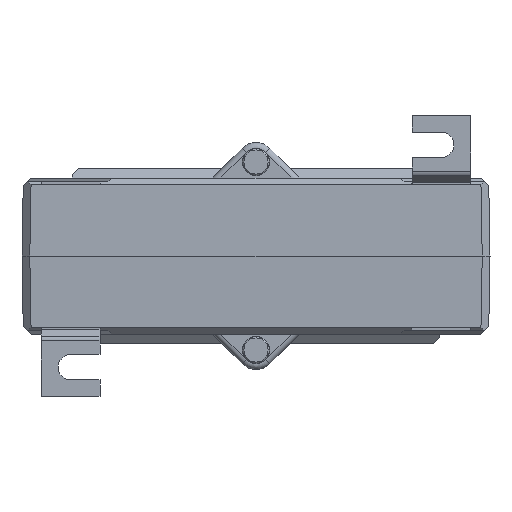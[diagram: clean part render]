
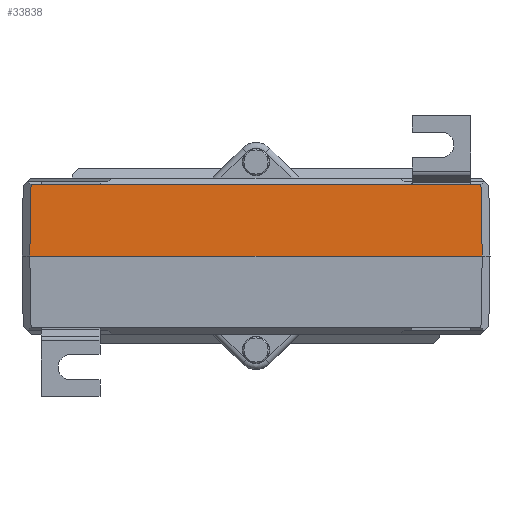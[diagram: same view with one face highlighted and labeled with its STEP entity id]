
A CAD part, front view. The second image highlights one B-rep face of the part: STEP entity #33838.
In plain terms, the highlighted planar face has unit normal (0, -1, 0.018).
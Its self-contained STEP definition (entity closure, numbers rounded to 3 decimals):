
#916=PLANE('',#35944);
#2345=FACE_OUTER_BOUND('',#4216,.T.);
#4216=EDGE_LOOP('',(#24691,#24692,#24693,#24694));
#7503=LINE('',#56906,#11006);
#7595=LINE('',#57143,#11098);
#7596=LINE('',#57145,#11099);
#7597=LINE('',#57146,#11100);
#11006=VECTOR('',#39667,1000.);
#11098=VECTOR('',#39835,1000.);
#11099=VECTOR('',#39836,1000.);
#11100=VECTOR('',#39837,1000.);
#15043=VERTEX_POINT('',#56903);
#15044=VERTEX_POINT('',#56905);
#15151=VERTEX_POINT('',#57142);
#15152=VERTEX_POINT('',#57144);
#18626=EDGE_CURVE('',#15044,#15043,#7503,.T.);
#18746=EDGE_CURVE('',#15151,#15044,#7595,.T.);
#18747=EDGE_CURVE('',#15043,#15152,#7596,.T.);
#18748=EDGE_CURVE('',#15151,#15152,#7597,.T.);
#24691=ORIENTED_EDGE('',*,*,#18746,.T.);
#24692=ORIENTED_EDGE('',*,*,#18626,.T.);
#24693=ORIENTED_EDGE('',*,*,#18747,.T.);
#24694=ORIENTED_EDGE('',*,*,#18748,.F.);
#33838=ADVANCED_FACE('',(#2345),#916,.T.);
#35944=AXIS2_PLACEMENT_3D('',#57141,#39833,#39834);
#39667=DIRECTION('',(-1.,0.,0.));
#39833=DIRECTION('center_axis',(0.,-1.,
0.017));
#39834=DIRECTION('ref_axis',(0.,-0.017,-1.));
#39835=DIRECTION('',(-0.017,0.017,1.));
#39836=DIRECTION('',(-0.017,-0.017,-1.));
#39837=DIRECTION('',(-1.,0.,0.));
#56903=CARTESIAN_POINT('',(-57.679,-58.18,18.32));
#56905=CARTESIAN_POINT('',(57.68,-58.18,18.32));
#56906=CARTESIAN_POINT('',(-47.5,-58.18,18.32));
#57141=CARTESIAN_POINT('Origin',(60.,-58.5,0.));
#57142=CARTESIAN_POINT('',(57.999,-58.5,0.));
#57143=CARTESIAN_POINT('',(58.,-58.501,-0.035));
#57144=CARTESIAN_POINT('',(-57.999,-58.5,0.));
#57145=CARTESIAN_POINT('',(-57.963,-58.464,2.058));
#57146=CARTESIAN_POINT('',(-60.,-58.5,0.));
